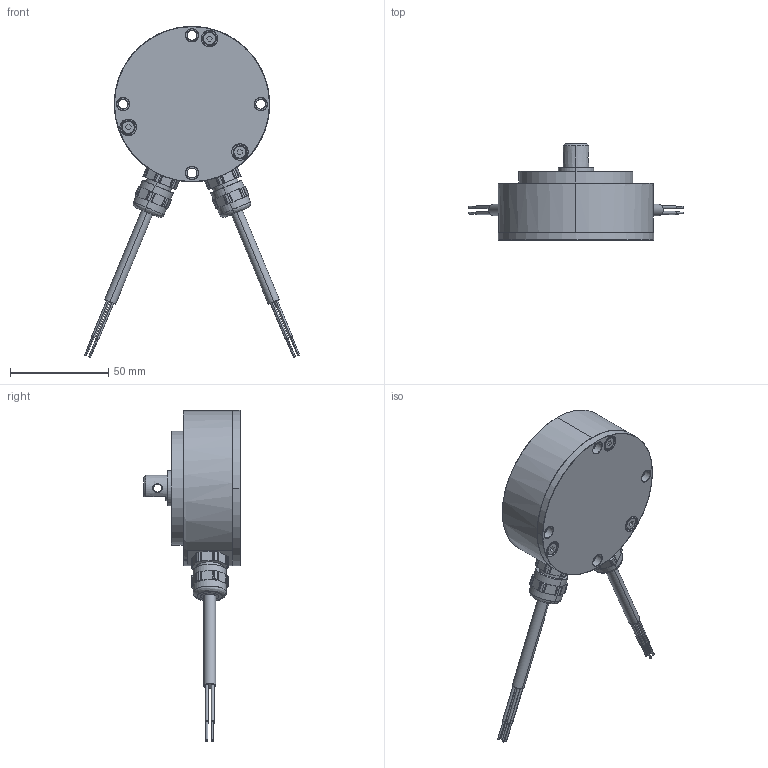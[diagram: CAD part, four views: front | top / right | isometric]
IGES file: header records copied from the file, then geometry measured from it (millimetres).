
Start section: SolidWorks IGES file using analytic representation for surfaces
Global section: file name: E:\Widmaier\3D-Daten\IPX\IPX-7911-_ _ _-_ _ _-302.IGS; native system: SolidWorks 2014; preprocessor: SolidWorks 2014; author: thiel; date: 170913.151104; units: millimetre
Bounding box: 109.31 x 49.05 x 168.38 mm (x, y, z)
Surface area: 31824.3 mm2 (no closed solid volume)
Topology: 0 solids, 0 shells, 404 faces, 5480 edges, 5480 vertices
Faces by surface type: revolution 256, bspline 148
